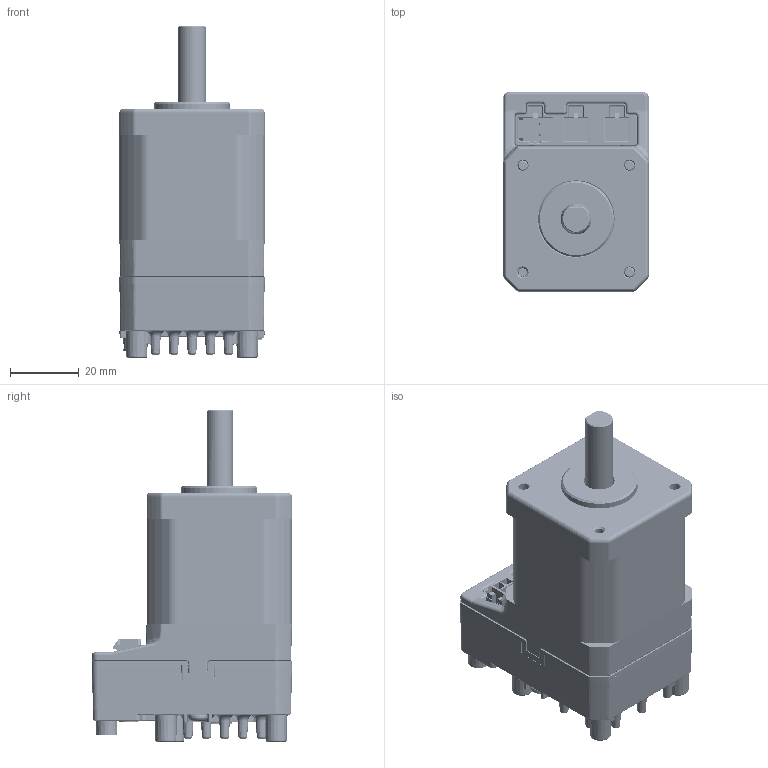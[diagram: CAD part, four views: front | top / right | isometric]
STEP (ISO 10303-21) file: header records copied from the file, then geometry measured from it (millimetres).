
FILE_DESCRIPTION (( 'STEP AP214' ), '1' );
FILE_NAME ('NEMA 17 CPM-EC 8mm.step', '2026-08-11T17:33:43', ( '' ), ( '' ), 'SwSTEP 2.0', 'SolidWorks 2020', '' );
FILE_SCHEMA (( 'AUTOMOTIVE_DESIGN' ));
Length unit declared in the file: inch
Products named in the file (1): NEMA 17 CPM-EC 8mm
Bounding box: 42.21 x 58.06 x 96.38 mm (x, y, z)
Volume: 63888.8 mm3; surface area: 67552.8 mm2
Topology: 20 solids, 20 shells, 5178 faces, 13704 edges, 8435 vertices
Faces by surface type: plane 1946, cylinder 1792, bspline 693, torus 382, cone 261, sphere 104
Entity records: 246690 total; most frequent: CARTESIAN_POINT 59238, ORIENTED_EDGE 27028, DIRECTION 23138, EDGE_CURVE 13514, VERTEX_POINT 8431, AXIS2_PLACEMENT_3D 8098, VECTOR 6942, LINE 6942
